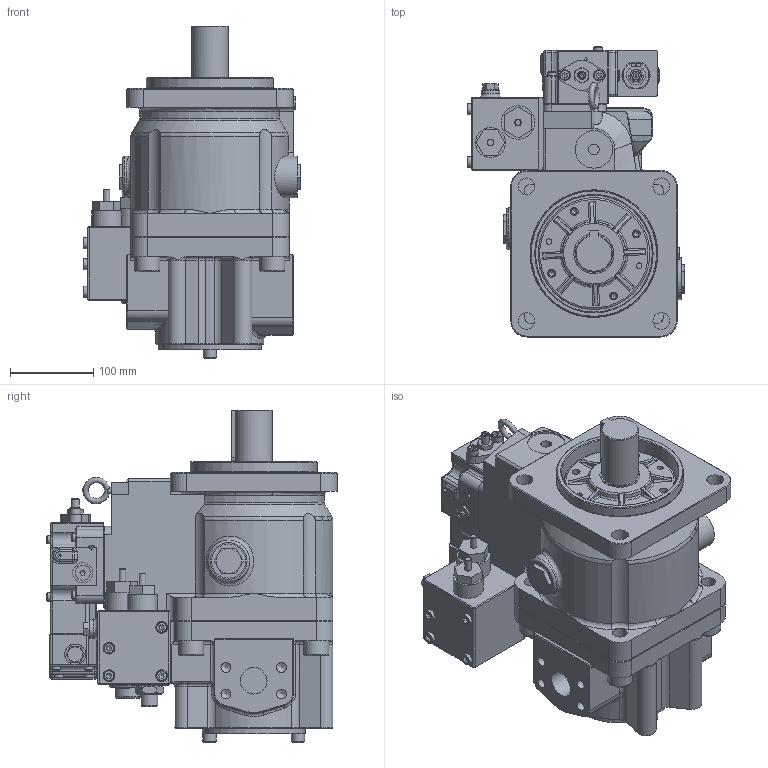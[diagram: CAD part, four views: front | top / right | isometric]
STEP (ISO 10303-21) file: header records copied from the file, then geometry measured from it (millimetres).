
FILE_DESCRIPTION((''),'2;1');
FILE_NAME('I:\3D Step files\K3V\K3VL112B 1NRKM L0 1-E0.stp','2009-05-28T15:08:53',('mnorman'),(''),'Autodesk Inventor 2010','Autodesk Inventor 2010','');
FILE_SCHEMA(('AUTOMOTIVE_DESIGN { 1 0 10303 214 1 1 1 1 }'));
Length unit declared in the file: millimetre
Products named in the file (1): Part6
Bounding box: 261 x 348 x 398.1 mm (x, y, z)
Volume: 13376128.5 mm3; surface area: 696441.2 mm2
Topology: 48 solids, 48 shells, 1788 faces, 4214 edges, 2575 vertices
Faces by surface type: plane 863, cylinder 342, bspline 337, cone 189, torus 43, sphere 14
Full cylindrical faces by diameter (mm): 5 x4, 6 x10, 8 x9, 9 x1, 9.5 x5, 10 x13, 11 x12, 11.4 x2, 12.717 x1, 12.75 x1, 13 x6, 14 x1, 16 x4, 18 x1, 20 x10, 21 x1, 22 x1, 22.804 x1, 24 x1, 25 x2, 30 x5, 31 x1, 32 x2, 36 x1, 40 x1, 41 x2, 44.45 x1, 45 x1, 48 x2, 50 x2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
Entity records: 55545 total; most frequent: CARTESIAN_POINT 17034, DIRECTION 7424, ORIENTED_EDGE 7216, EDGE_CURVE 3608, AXIS2_PLACEMENT_3D 2844, VERTEX_POINT 2369, EDGE_LOOP 2293, FACE_OUTER_BOUND 1787
